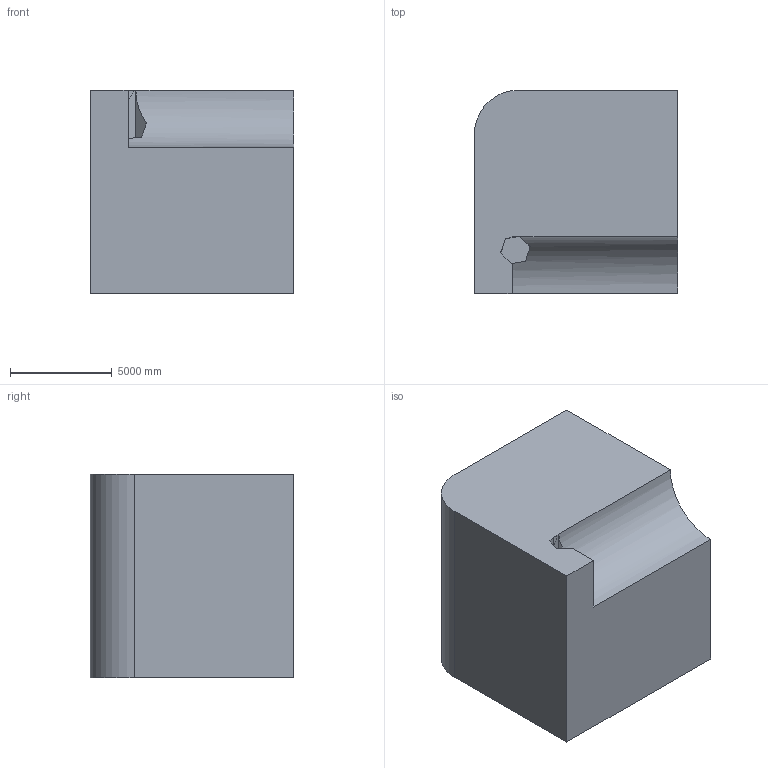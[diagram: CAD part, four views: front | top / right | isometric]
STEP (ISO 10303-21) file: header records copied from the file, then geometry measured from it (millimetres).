
FILE_DESCRIPTION (( 'STEP AP203' ), '1' );
FILE_NAME ('43.STEP', '2022-08-30T14:09:32', ( 'user' ), ( '' ), 'SwSTEP 2.0', 'SolidWorks 2021', '' );
FILE_SCHEMA (( 'CONFIG_CONTROL_DESIGN' ));
Length unit declared in the file: centimetre
Products named in the file (1): 43
Bounding box: 10000 x 10000 x 10000 mm (x, y, z)
Volume: 885012993865 mm3; surface area: 707546055.9 mm2
Topology: 1 solids, 1 shells, 27 faces, 72 edges, 48 vertices
Faces by surface type: plane 18, cylinder 9
Entity records: 1194 total; most frequent: CARTESIAN_POINT 438, ORIENTED_EDGE 144, DIRECTION 137, EDGE_CURVE 72, VERTEX_POINT 48, LINE 47, VECTOR 47, AXIS2_PLACEMENT_3D 45
